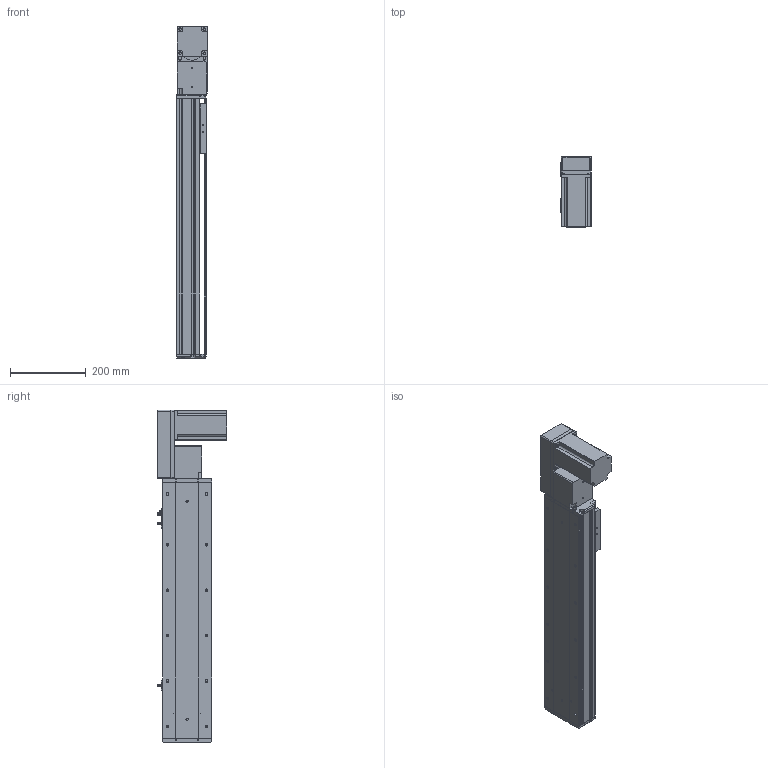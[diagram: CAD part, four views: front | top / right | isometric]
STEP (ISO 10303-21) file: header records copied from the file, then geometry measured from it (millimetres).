
FILE_DESCRIPTION (( 'STEP AP214' ), '1' );
FILE_NAME ('KSD130B-S450-MRB-CM.STEP', '2019-11-15T05:56:18', ( '微软用户' ), ( '微软中国' ), 'SwSTEP 2.0', 'SolidWorks 2014', '' );
FILE_SCHEMA (( 'AUTOMOTIVE_DESIGN' ));
Length unit declared in the file: millimetre
Products named in the file (12): KSD130B-S450-MRB-CM; 台达ECMA－C20807AS伺服电机; 130宽模组保护罩上下左右折-同步带; 130宽模组马达安装板连板左右折同步带; 覜茼え100遵圉猾敕; U倰嫖萇EEㄜSX672; 130宽盖板半封闭同步带-450行程; 130宽马达安装板同步带右-改镜向_默认<按加工>; 130宽马达安装板同步带半封闭; 130宽同步带安装座半封闭; 130宽端盖同步带半封闭; 130宽底板半封闭同步带-450行程
Assembly tree (13 placements, depth 2):
  KSD130B-S450-MRB-CM
    130宽底板半封闭同步带-450行程
    130宽端盖同步带半封闭
    130宽同步带安装座半封闭
    130宽马达安装板同步带半封闭
    130宽马达安装板同步带右-改镜向_默认<按加工>
    130宽盖板半封闭同步带-450行程
    U倰嫖萇EEㄜSX672  x3
    覜茼え100遵圉猾敕
    130宽模组马达安装板连板左右折同步带
    130宽模组保护罩上下左右折-同步带
    台达ECMA－C20807AS伺服电机
Bounding box: 81 x 184.8 x 877 mm (x, y, z)
Volume: 3504982.3 mm3; surface area: 906430.9 mm2
Topology: 14 solids, 14 shells, 1397 faces, 3921 edges, 2521 vertices
Faces by surface type: cylinder 652, plane 606, cone 139
Entity records: 44499 total; most frequent: CARTESIAN_POINT 7926, DIRECTION 6835, ORIENTED_EDGE 6550, EDGE_CURVE 3275, AXIS2_PLACEMENT_3D 2470, VERTEX_POINT 2145, VECTOR 1895, LINE 1895
